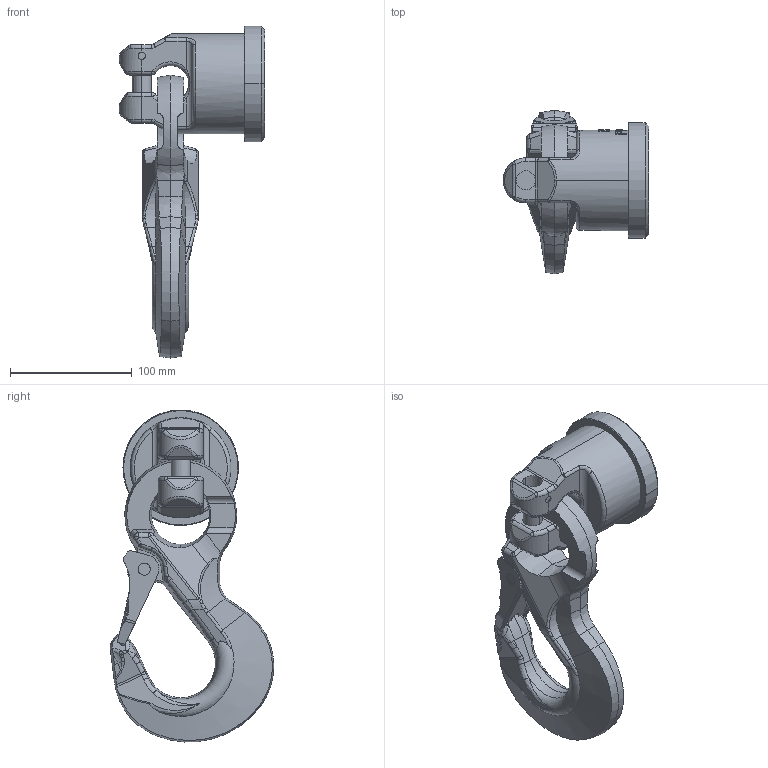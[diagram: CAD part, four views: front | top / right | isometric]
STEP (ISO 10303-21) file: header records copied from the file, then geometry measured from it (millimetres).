
FILE_DESCRIPTION((''),'2;1');
FILE_NAME('001-M31395-P-40_ASM','2018-04-26T',('Anja.Joas'),(''),'PRO/ENGINEER BY PARAMETRIC TECHNOLOGY CORPORATION, 2011490','PRO/ENGINEER BY PARAMETRIC TECHNOLOGY CORPORATION, 2011490','');
FILE_SCHEMA(('CONFIG_CONTROL_DESIGN'));
Length unit declared in the file: millimetre
Products named in the file (6): 001-M31395-P-20; 001-M31395-P-50; 001-M31479-001; 001-M31480-001; 001-M31479-002_ASM; 001-M31395-P-40_ASM
Assembly tree (5 placements, depth 3):
  001-M31395-P-40_ASM
    001-M31395-P-20
    001-M31395-P-50
    001-M31479-002_ASM
      001-M31479-001
      001-M31480-001
Bounding box: 119.5 x 134.49 x 272.88 mm (x, y, z)
Volume: 837698.8 mm3; surface area: 116899.3 mm2
Topology: 4 solids, 4 shells, 717 faces, 1894 edges, 1186 vertices
Faces by surface type: plane 379, cylinder 130, bspline 88, sphere 42, cone 42, torus 36
Entity records: 26813 total; most frequent: CARTESIAN_POINT 10200, ORIENTED_EDGE 3732, DIRECTION 3043, EDGE_CURVE 1866, VERTEX_POINT 1186, AXIS2_PLACEMENT_3D 1110, VECTOR 823, LINE 823
